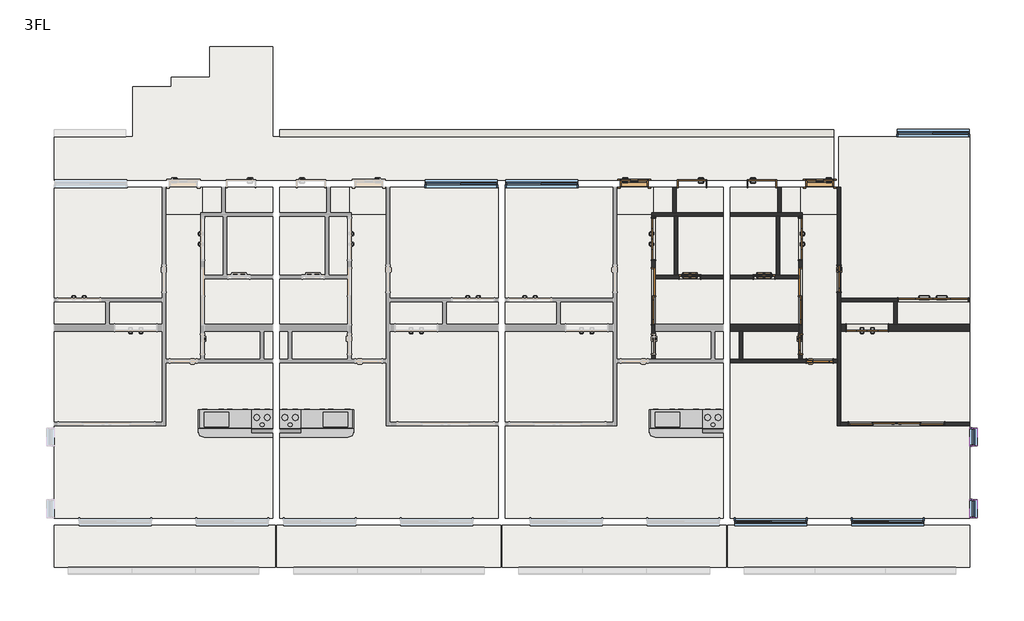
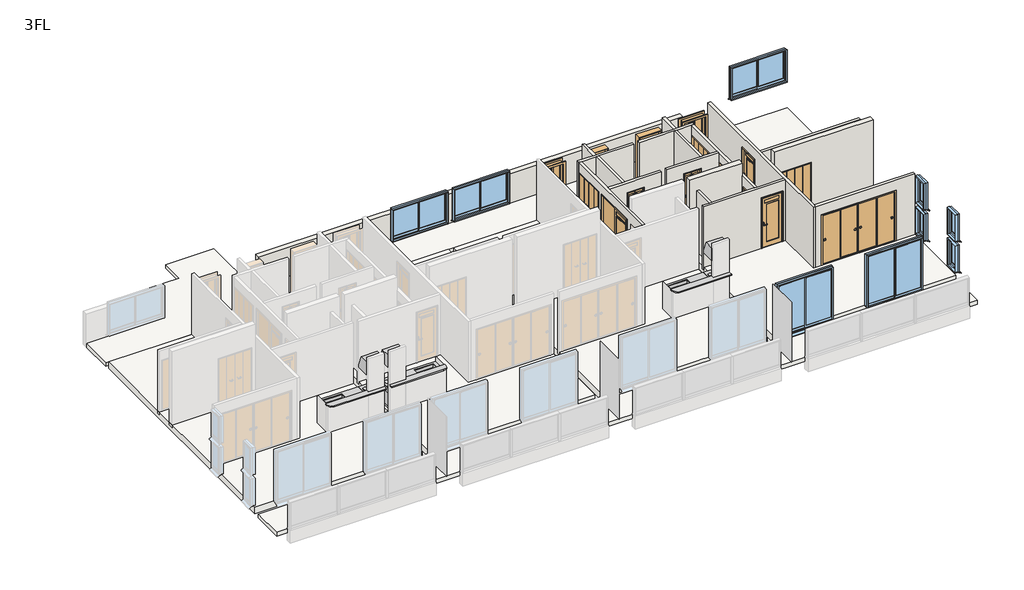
# One storey, part 3 of 3: 19 walls, 16 doors, 14 slabs, 9 windows, 3 flow terminals, 3 furniture elements.
"""IFC4 building model written with IfcOpenShell, lengths in millimetres."""

from ifc_helpers import new_model, si_unit, frame, origin, place, context, project, spatial, polyline, outline, extrude, faceted_brep, transform, mapped, element, save
from components import door_800x2000_a7d1584b, door_800x2000_010bfebf, w1200h2000_6a144d60, w1200h2000_99d19fb3, w1200h2000_ebe1d490, w1600h2000_4c3c234a, w1600h2000_ca690e72, w2000h2000_5dbb6d6a, w2800h2000_04aa64cd, w600h2000_6a266bef, w600h2000_94bb9c3c, w600h2000_8ea70a65, w800h2000_1d97c4d4, w800h2000_13e9f519, w800h2000_ccb03061, w800h2000_0ab7d42c, flow_terminal_5276808d, flow_terminal_b13850ba, furniture_3a0496f9, furniture_dadabe7c, window_2000x1200_fc91d1cf, window_2000x2000_f1ff98da, window_450x1000_1cddc73c

model = new_model("IFC4")

# Units and contexts
model_context = context("Model", 3, world=origin())
ifc_project = project(units=[si_unit("LENGTHUNIT", "METRE", prefix="MILLI")], contexts=[model_context])

# Site, building, storey
site = spatial("IfcSite", under=ifc_project)
building = spatial("IfcBuilding", under=site)
storey = spatial("IfcBuildingStorey", under=building, Name="3FL", Elevation=7000.0)

# Doors
placement = place(None, origin())
door_800x2000_shape = door_800x2000_a7d1584b(model_context)
element("IfcDoor", 1, ObjectType="片開き3 : 800x2000", at=placement, inside=storey, context=model_context, shape_type="MappedRepresentation", body=[
    mapped(door_800x2000_shape, transform((5521.2812754, -5700.1171638, 7000.0), x_axis=(1.0, 0.0, 0.0), y_axis=(0.0, 1.0, 0.0), z_axis=(0.0, 0.0, 1.0))),
])
door_800x2000_2_shape = door_800x2000_010bfebf(model_context)
element("IfcDoor", 2, ObjectType="片開き3 : 800x2000", at=placement, inside=storey, context=model_context, shape_type="MappedRepresentation", body=[
    mapped(door_800x2000_2_shape, transform((10821.2812754, -5700.1171638, 7000.0), x_axis=(-1.0, 0.0, 0.0), y_axis=(0.0, -1.0, 0.0), z_axis=(0.0, 0.0, 1.0))),
])
w1200h2000_shape = w1200h2000_6a144d60(model_context)
element("IfcDoor", 3, ObjectType="木製折戸 : w1200h2000", at=placement, inside=storey, context=model_context, shape_type="MappedRepresentation", body=[
    mapped(w1200h2000_shape, transform((6071.2812754, -7280.1171638, 7100.0), x_axis=(0.0, 1.0, 0.0), y_axis=(-1.0, 0.0, 0.0), z_axis=(0.0, 0.0, 1.0))),
])
w1200h2000_2_shape = w1200h2000_99d19fb3(model_context)
element("IfcDoor", 4, ObjectType="木製折戸 : w1200h2000", at=placement, inside=storey, context=model_context, shape_type="MappedRepresentation", body=[
    mapped(w1200h2000_2_shape, transform((10271.2812754, -7280.1171638, 7100.0), x_axis=(0.0, 1.0, 0.0), y_axis=(-1.0, 0.0, 0.0), z_axis=(0.0, 0.0, 1.0))),
])
w1200h2000_3_shape = w1200h2000_ebe1d490(model_context)
element("IfcDoor", 5, ObjectType="木製折戸 : w1200h2000", at=placement, inside=storey, context=model_context, shape_type="MappedRepresentation", body=[
    mapped(w1200h2000_3_shape, transform((12183.7812754, -9820.1171638, 7100.0), x_axis=(1.0, 0.0, 0.0), y_axis=(0.0, 1.0, 0.0), z_axis=(0.0, 0.0, 1.0))),
])
w1600h2000_shape = w1600h2000_4c3c234a(model_context)
element("IfcDoor", 6, ObjectType="片引戸CL2017 : w1600h2000", at=placement, inside=storey, context=model_context, shape_type="MappedRepresentation", body=[
    mapped(w1600h2000_shape, transform((6071.2812754, -8920.1171638, 7100.0), x_axis=(0.0, -1.0, 0.0), y_axis=(1.0, 0.0, 0.0), z_axis=(0.0, 0.0, 1.0))),
])
w1600h2000_2_shape = w1600h2000_ca690e72(model_context)
element("IfcDoor", 7, ObjectType="片引戸CL2017 : w1600h2000", at=placement, inside=storey, context=model_context, shape_type="MappedRepresentation", body=[
    mapped(w1600h2000_2_shape, transform((10271.2812754, -8920.1171638, 7100.0), x_axis=(0.0, -1.0, 0.0), y_axis=(1.0, 0.0, 0.0), z_axis=(0.0, 0.0, 1.0))),
])
w2000h2000_shape = w2000h2000_5dbb6d6a(model_context)
element("IfcDoor", 8, ObjectType="木製折戸 : w2000h2000", at=placement, inside=storey, context=model_context, shape_type="MappedRepresentation", body=[
    mapped(w2000h2000_shape, transform((14066.2812754, -9020.1171638, 7100.0), x_axis=(-1.0, 0.0, 0.0), y_axis=(0.0, -1.0, 0.0), z_axis=(0.0, 0.0, 1.0))),
])
w2800h2000_shape = w2800h2000_04aa64cd(model_context)
element("IfcDoor", 9, ObjectType="引違い 4 枚 2 溝_襖 : w2800h2000", at=placement, inside=storey, context=model_context, shape_type="MappedRepresentation", body=[
    mapped(w2800h2000_shape, transform((13026.8167793, -12570.1171638, 7100.0), x_axis=(1.0, 0.0, 0.0), y_axis=(0.0, 1.0, 0.0), z_axis=(0.0, 0.0, 1.0))),
])
w600h2000_shape = w600h2000_6a266bef(model_context)
element("IfcDoor", 10, ObjectType="浴室折戸 : w600h2000", at=placement, inside=storey, context=model_context, shape_type="MappedRepresentation", body=[
    mapped(w600h2000_shape, transform((7111.2812754, -8370.1171638, 7100.0), x_axis=(1.0, 0.0, 0.0), y_axis=(0.0, 1.0, 0.0), z_axis=(0.0, 0.0, 1.0))),
])
w600h2000_2_shape = w600h2000_94bb9c3c(model_context)
element("IfcDoor", 11, ObjectType="浴室折戸 : w600h2000", at=placement, inside=storey, context=model_context, shape_type="MappedRepresentation", body=[
    mapped(w600h2000_2_shape, transform((9231.2812754, -8370.1171638, 7100.0), x_axis=(-1.0, 0.0, 0.0), y_axis=(0.0, -1.0, 0.0), z_axis=(0.0, 0.0, 1.0))),
])
w600h2000_3_shape = w600h2000_8ea70a65(model_context)
element("IfcDoor", 12, ObjectType="片開戸CL2058 : w600h2000", at=placement, inside=storey, context=model_context, shape_type="MappedRepresentation", body=[
    mapped(w600h2000_3_shape, transform((10271.2812754, -10295.1171638, 7100.0), x_axis=(0.0, -1.0, 0.0), y_axis=(1.0, 0.0, 0.0), z_axis=(0.0, 0.0, 1.0))),
])
w800h2000_shape = w800h2000_1d97c4d4(model_context)
element("IfcDoor", 13, ObjectType="片開 : w800h2000", at=placement, inside=storey, context=model_context, shape_type="MappedRepresentation", body=[
    mapped(w800h2000_shape, transform((7171.2812754, -5700.1171638, 7000.0), x_axis=(-1.0, 0.0, 0.0), y_axis=(0.0, -1.0, 0.0), z_axis=(0.0, 0.0, 1.0))),
])
w800h2000_2_shape = w800h2000_13e9f519(model_context)
element("IfcDoor", 14, ObjectType="片開戸CL2058 : w800h2000", at=placement, inside=storey, context=model_context, shape_type="MappedRepresentation", body=[
    mapped(w800h2000_2_shape, transform((10821.2812754, -10770.1171638, 7100.0), x_axis=(1.0, 0.0, 0.0), y_axis=(0.0, 1.0, 0.0), z_axis=(0.0, 0.0, 1.0))),
])
w800h2000_3_shape = w800h2000_ccb03061(model_context)
element("IfcDoor", 15, ObjectType="片開戸CL2058 : w800h2000", at=placement, inside=storey, context=model_context, shape_type="MappedRepresentation", body=[
    mapped(w800h2000_3_shape, transform((11371.2812754, -8420.1171638, 7100.0), x_axis=(0.0, -1.0, 0.0), y_axis=(1.0, 0.0, 0.0), z_axis=(0.0, 0.0, 1.0))),
])
w800h2000_4_shape = w800h2000_0ab7d42c(model_context)
element("IfcDoor", 16, ObjectType="片開 : w800h2000", at=placement, inside=storey, context=model_context, shape_type="MappedRepresentation", body=[
    mapped(w800h2000_4_shape, transform((9171.2812754, -5700.1171638, 7000.0), x_axis=(1.0, 0.0, 0.0), y_axis=(0.0, 1.0, 0.0), z_axis=(0.0, 0.0, 1.0))),
])

# Flow terminals
flow_terminal_shape = flow_terminal_5276808d(model_context)
element("IfcFlowTerminal", 17, ObjectType="システムキッチンIH : システムキッチンIH", at=placement, inside=storey, context=model_context, shape_type="MappedRepresentation", body=[
    mapped(flow_terminal_shape, transform((-4828.7187246, -12720.1171638, 7200.0), x_axis=(1.0, 0.0, 0.0), y_axis=(0.0, 1.0, 0.0), z_axis=(0.0, 0.0, 1.0))),
])
element("IfcFlowTerminal", 18, ObjectType="システムキッチンIH : システムキッチンIH", at=placement, inside=storey, context=model_context, shape_type="MappedRepresentation", body=[
    mapped(flow_terminal_shape, transform((8071.2812754, -12720.1171638, 7200.0), x_axis=(1.0, 0.0, 0.0), y_axis=(0.0, 1.0, 0.0), z_axis=(0.0, 0.0, 1.0))),
])
flow_terminal_2_shape = flow_terminal_b13850ba(model_context)
element("IfcFlowTerminal", 19, ObjectType="システムキッチンIH : システムキッチンIH", at=placement, inside=storey, context=model_context, shape_type="MappedRepresentation", body=[
    mapped(flow_terminal_2_shape, transform((-4628.7187246, -12720.1171638, 7200.0), x_axis=(-1.0, 0.0, 0.0), y_axis=(0.0, -1.0, 0.0), z_axis=(0.0, 0.0, 1.0))),
])

# Furniture
furniture_shape = furniture_3a0496f9(model_context)
element("IfcFurniture", 20, ObjectType="キッチンカウンター : キッチンカウンター", at=placement, inside=storey, context=model_context, shape_type="MappedRepresentation", body=[
    mapped(furniture_shape, transform((-4628.7187246, -12820.1171638, 7100.0), x_axis=(-1.0, 0.0, 0.0), y_axis=(0.0, -1.0, 0.0), z_axis=(0.0, 0.0, 1.0))),
])
furniture_2_shape = furniture_dadabe7c(model_context)
element("IfcFurniture", 21, ObjectType="キッチンカウンター : キッチンカウンター", at=placement, inside=storey, context=model_context, shape_type="MappedRepresentation", body=[
    mapped(furniture_2_shape, transform((-4828.7187246, -12820.1171638, 7100.0), x_axis=(1.0, 0.0, 0.0), y_axis=(0.0, 1.0, 0.0), z_axis=(0.0, 0.0, 1.0))),
])
element("IfcFurniture", 22, ObjectType="キッチンカウンター : キッチンカウンター", at=placement, inside=storey, context=model_context, shape_type="MappedRepresentation", body=[
    mapped(furniture_2_shape, transform((8071.2812754, -12820.1171638, 7100.0), x_axis=(1.0, 0.0, 0.0), y_axis=(0.0, 1.0, 0.0), z_axis=(0.0, 0.0, 1.0))),
])

# Slabs
element("IfcSlab", 23, ObjectType="RC150＋100", at=placement, inside=storey, context=model_context, shape_type="SweptSolid", body=[
    extrude(outline(polyline([(-4828.7187246, -15270.1171638), (-11078.7187246, -15270.1171638), (-11078.7187246, -5800.1171638), (-7928.7187246, -5800.1171638), (-7928.7187246, -6580.1171638), (-6828.7187246, -6580.1171638), (-6828.7187246, -5800.1171638), (-4828.7187246, -5800.1171638), (-4828.7187246, -6580.1171638), (-6188.7187246, -6580.1171638), (-6188.7187246, -8370.1171638), (-4828.7187246, -8370.1171638), (-4828.7187246, -15270.1171638)])), frame((0.0, 0.0, 6850.0), z_axis=(0.0, 0.0, 1.0), x_axis=(1.0, 0.0, 0.0)), (0.0, 0.0, 1.0), 250.0),
])
element("IfcSlab", 24, ObjectType="RC150＋100", at=placement, inside=storey, context=model_context, shape_type="SweptSolid", body=[
    extrude(outline(polyline([(-4628.7187246, -15270.1171638), (-4628.7187246, -8370.1171638), (-3268.7187246, -8370.1171638), (-3268.7187246, -6580.1171638), (-4628.7187246, -6580.1171638), (-4628.7187246, -5800.1171638), (-2628.7187246, -5800.1171638), (-2628.7187246, -6580.1171638), (-1528.7187246, -6580.1171638), (-1528.7187246, -5800.1171638), (1621.2812754, -5800.1171638), (1621.2812754, -15270.1171638), (-4628.7187246, -15270.1171638)])), frame((0.0, 0.0, 6850.0), z_axis=(0.0, 0.0, 1.0), x_axis=(1.0, 0.0, 0.0)), (0.0, 0.0, 1.0), 250.0),
])
element("IfcSlab", 25, ObjectType="RC150＋100", at=placement, inside=storey, context=model_context, shape_type="SweptSolid", body=[
    extrude(outline(polyline([(8071.2812754, -15270.1171638), (1821.2812754, -15270.1171638), (1821.2812754, -5800.1171638), (4971.2812754, -5800.1171638), (4971.2812754, -6580.1171638), (6071.2812754, -6580.1171638), (6071.2812754, -5800.1171638), (8071.2812754, -5800.1171638), (8071.2812754, -6580.1171638), (6711.2812754, -6580.1171638), (6711.2812754, -8370.1171638), (8071.2812754, -8370.1171638), (8071.2812754, -15270.1171638)])), frame((0.0, 0.0, 6850.0), z_axis=(0.0, 0.0, 1.0), x_axis=(1.0, 0.0, 0.0)), (0.0, 0.0, 1.0), 250.0),
])
element("IfcSlab", 26, ObjectType="RC150＋100", at=placement, inside=storey, context=model_context, shape_type="SweptSolid", body=[
    extrude(outline(polyline([(8271.2812754, -15270.1171638), (8271.2812754, -8370.1171638), (9631.2812754, -8370.1171638), (9631.2812754, -6580.1171638), (8271.2812754, -6580.1171638), (8271.2812754, -5800.1171638), (10271.2812754, -5800.1171638), (10271.2812754, -6580.1171638), (11371.2812754, -6580.1171638), (11371.2812754, -4350.1171638), (15121.2812754, -4350.1171638), (15121.2812754, -15270.1171638), (8271.2812754, -15270.1171638)])), frame((0.0, 0.0, 6850.0), z_axis=(0.0, 0.0, 1.0), x_axis=(1.0, 0.0, 0.0)), (0.0, 0.0, 1.0), 250.0),
])
element("IfcSlab", 27, ObjectType="RC150", at=placement, inside=storey, context=model_context, shape_type="SweptSolid", body=[
    extrude(outline(polyline([(-4828.7187246, -8370.1171638), (-6188.7187246, -8370.1171638), (-6188.7187246, -6580.1171638), (-4828.7187246, -6580.1171638), (-4828.7187246, -8370.1171638)])), frame((0.0, 0.0, 6850.0), z_axis=(0.0, 0.0, 1.0), x_axis=(1.0, 0.0, 0.0)), (0.0, 0.0, 1.0), 150.0),
])
element("IfcSlab", 28, ObjectType="RC150", at=placement, inside=storey, context=model_context, shape_type="SweptSolid", body=[
    extrude(outline(polyline([(-6828.7187246, -6580.1171638), (-7928.7187246, -6580.1171638), (-7928.7187246, -5800.1171638), (-6828.7187246, -5800.1171638), (-6828.7187246, -6580.1171638)])), frame((0.0, 0.0, 6800.0), z_axis=(0.0, 0.0, 1.0), x_axis=(1.0, 0.0, 0.0)), (0.0, 0.0, 1.0), 150.0),
])
element("IfcSlab", 29, ObjectType="RC150", at=placement, inside=storey, context=model_context, shape_type="SweptSolid", body=[
    extrude(outline(polyline([(-4628.7187246, -8370.1171638), (-4628.7187246, -6580.1171638), (-3268.7187246, -6580.1171638), (-3268.7187246, -8370.1171638), (-4628.7187246, -8370.1171638)])), frame((0.0, 0.0, 6850.0), z_axis=(0.0, 0.0, 1.0), x_axis=(1.0, 0.0, 0.0)), (0.0, 0.0, 1.0), 150.0),
])
element("IfcSlab", 30, ObjectType="RC150", at=placement, inside=storey, context=model_context, shape_type="SweptSolid", body=[
    extrude(outline(polyline([(-2628.7187246, -6580.1171638), (-2628.7187246, -5800.1171638), (-1528.7187246, -5800.1171638), (-1528.7187246, -6580.1171638), (-2628.7187246, -6580.1171638)])), frame((0.0, 0.0, 6800.0), z_axis=(0.0, 0.0, 1.0), x_axis=(1.0, 0.0, 0.0)), (0.0, 0.0, 1.0), 150.0),
])
element("IfcSlab", 31, ObjectType="RC150", at=placement, inside=storey, context=model_context, shape_type="SweptSolid", body=[
    extrude(outline(polyline([(8071.2812754, -8370.1171638), (6711.2812754, -8370.1171638), (6711.2812754, -6580.1171638), (8071.2812754, -6580.1171638), (8071.2812754, -8370.1171638)])), frame((0.0, 0.0, 6850.0), z_axis=(0.0, 0.0, 1.0), x_axis=(1.0, 0.0, 0.0)), (0.0, 0.0, 1.0), 150.0),
])
element("IfcSlab", 32, ObjectType="RC150", at=placement, inside=storey, context=model_context, shape_type="SweptSolid", body=[
    extrude(outline(polyline([(6071.2812754, -6580.1171638), (4971.2812754, -6580.1171638), (4971.2812754, -5800.1171638), (6071.2812754, -5800.1171638), (6071.2812754, -6580.1171638)])), frame((0.0, 0.0, 6800.0), z_axis=(0.0, 0.0, 1.0), x_axis=(1.0, 0.0, 0.0)), (0.0, 0.0, 1.0), 150.0),
])
element("IfcSlab", 33, ObjectType="RC150", at=placement, inside=storey, context=model_context, shape_type="SweptSolid", body=[
    extrude(outline(polyline([(8271.2812754, -8370.1171638), (8271.2812754, -6580.1171638), (9631.2812754, -6580.1171638), (9631.2812754, -8370.1171638), (8271.2812754, -8370.1171638)])), frame((0.0, 0.0, 6850.0), z_axis=(0.0, 0.0, 1.0), x_axis=(1.0, 0.0, 0.0)), (0.0, 0.0, 1.0), 150.0),
])
element("IfcSlab", 34, ObjectType="RC150", at=placement, inside=storey, context=model_context, shape_type="SweptSolid", body=[
    extrude(outline(polyline([(10271.2812754, -6580.1171638), (10271.2812754, -5800.1171638), (11371.2812754, -5800.1171638), (11371.2812754, -6580.1171638), (10271.2812754, -6580.1171638)])), frame((0.0, 0.0, 6800.0), z_axis=(0.0, 0.0, 1.0), x_axis=(1.0, 0.0, 0.0)), (0.0, 0.0, 1.0), 150.0),
])
element("IfcSlab", 35, ObjectType="RC150", at=placement, inside=storey, context=model_context, shape_type="SweptSolid", body=[
    extrude(outline(polyline([(15121.2812754, -15470.1171638), (15121.2812754, -16670.1171638), (-11078.7187246, -16670.1171638), (-11078.7187246, -15470.1171638), (15121.2812754, -15470.1171638)])), frame((0.0, 0.0, 6800.0), z_axis=(0.0, 0.0, 1.0), x_axis=(1.0, 0.0, 0.0)), (0.0, 0.0, 1.0), 150.0),
])
element("IfcSlab", 36, ObjectType="RC150", at=placement, inside=storey, context=model_context, shape_type="SweptSolid", body=[
    extrude(outline(polyline([(-8828.7187246, -4350.1171638), (-8828.7187246, -2920.1171638), (-7728.7187246, -2920.1171638), (-7728.7187246, -2660.1171638), (-6628.7187246, -2660.1171638), (-6628.7187246, -1775.1171638), (-4828.7187246, -1775.1171638), (-4828.7187246, -4350.1171638), (11221.2812754, -4350.1171638), (11221.2812754, -5600.1171638), (-11078.7187246, -5600.1171638), (-11078.7187246, -4350.1171638), (-8828.7187246, -4350.1171638)])), frame((0.0, 0.0, 6800.0), z_axis=(0.0, 0.0, 1.0), x_axis=(1.0, 0.0, 0.0)), (0.0, 0.0, 1.0), 150.0),
])

# Walls
element("IfcWall", 37, ObjectType="(R)RC200", at=placement, inside=storey, context=model_context, shape_type="Brep", body=[
    faceted_brep([(15121.2812754, -9720.1171638, 7000.0), (13046.2812754, -9720.1171638, 7000.0), (12946.2812754, -9720.1171638, 7000.0), (11421.2812754, -9720.1171638, 7000.0), (11421.2812754, -9720.1171638, 10000.0), (15121.2812754, -9720.1171638, 10000.0), (12803.7812754, -9720.1171638, 9120.0), (11563.7812754, -9720.1171638, 9120.0), (11563.7812754, -9720.1171638, 7100.0), (12803.7812754, -9720.1171638, 7100.0), (15121.2812754, -9920.1171638, 7000.0), (15121.2812754, -9920.1171638, 10000.0), (11421.2812754, -9920.1171638, 10000.0), (11421.2812754, -9920.1171638, 7000.0), (12803.7812754, -9920.1171638, 9120.0), (12803.7812754, -9920.1171638, 7100.0), (11563.7812754, -9920.1171638, 7100.0), (11563.7812754, -9920.1171638, 9120.0)], [[[0, 1, 2, 3, 4, 5], [6, 7, 8, 9]], [[10, 11, 12, 13], [14, 15, 16, 17]], [[3, 2, 1, 0, 10, 13]], [[5, 4, 12, 11]], [[4, 3, 13, 12]], [[15, 14, 6, 9]], [[16, 15, 9, 8]], [[17, 16, 8, 7]], [[14, 17, 7, 6]], [[0, 5, 11, 10]]]),
])
element("IfcWall", 38, ObjectType="(R)RC200", at=placement, inside=storey, context=model_context, shape_type="Brep", body=[
    faceted_brep([(10221.2812754, -9720.1171638, 7000.0), (8271.2812754, -9720.1171638, 7000.0), (8271.2812754, -9720.1171638, 10000.0), (10221.2812754, -9720.1171638, 10000.0), (10221.2812754, -9920.1171638, 7000.0), (10221.2812754, -9920.1171638, 10000.0), (8271.2812754, -9920.1171638, 10000.0), (8271.2812754, -9920.1171638, 7000.0), (8521.2812754, -9920.1171638, 7000.0), (8621.2812754, -9920.1171638, 7000.0)], [[[0, 1, 2, 3]], [[4, 5, 6, 7, 8, 9]], [[1, 0, 4, 9, 8, 7]], [[3, 2, 6, 5]], [[0, 3, 5, 4]], [[2, 1, 7, 6]]]),
])
element("IfcWall", 39, ObjectType="(R)RC200", at=placement, inside=storey, context=model_context, shape_type="SweptSolid", body=[
    extrude(outline(polyline([(11221.2812754, -4350.1171638), (-4628.7187246, -4350.1171638), (-4628.7187246, -4150.1171638), (11221.2812754, -4150.1171638), (11221.2812754, -4350.1171638)])), frame((0.0, 0.0, 6800.0), z_axis=(0.0, 0.0, 1.0), x_axis=(1.0, 0.0, 0.0)), (0.0, 0.0, 1.0), 1300.0),
])
element("IfcWall", 40, ObjectType="(L1)LGS100", at=placement, inside=storey, context=model_context, shape_type="Brep", body=[
    faceted_brep([(6121.2812754, -8420.1171638, 7000.0), (8071.2812754, -8420.1171638, 7000.0), (8071.2812754, -8420.1171638, 9500.0), (6121.2812754, -8420.1171638, 9500.0), (7431.2812754, -8420.1171638, 9120.0), (7431.2812754, -8420.1171638, 7100.0), (6791.2812754, -8420.1171638, 7100.0), (6791.2812754, -8420.1171638, 9120.0), (6121.2812754, -8320.1171638, 7000.0), (6121.2812754, -8320.1171638, 9500.0), (6661.2812754, -8320.1171638, 9500.0), (6761.2812754, -8320.1171638, 9500.0), (8071.2812754, -8320.1171638, 9500.0), (8071.2812754, -8320.1171638, 7000.0), (6761.2812754, -8320.1171638, 7000.0), (6661.2812754, -8320.1171638, 7000.0), (7431.2812754, -8320.1171638, 9120.0), (6791.2812754, -8320.1171638, 9120.0), (6791.2812754, -8320.1171638, 7100.0), (7431.2812754, -8320.1171638, 7100.0)], [[[0, 1, 2, 3], [4, 5, 6, 7]], [[8, 9, 10, 11, 12, 13, 14, 15], [16, 17, 18, 19]], [[1, 0, 8, 15, 14, 13]], [[3, 2, 12, 11, 10, 9]], [[0, 3, 9, 8]], [[5, 4, 16, 19]], [[6, 5, 19, 18]], [[7, 6, 18, 17]], [[4, 7, 17, 16]], [[2, 1, 13, 12]]]),
])
element("IfcWall", 41, ObjectType="(L1)LGS100", at=placement, inside=storey, context=model_context, shape_type="Brep", body=[
    faceted_brep([(6121.2812754, -10720.1171638, 7000.0), (6121.2812754, -9920.1171638, 7000.0), (6121.2812754, -9720.1171638, 7000.0), (6121.2812754, -8420.1171638, 7000.0), (6121.2812754, -8320.1171638, 7000.0), (6121.2812754, -6630.1171638, 7000.0), (6121.2812754, -6630.1171638, 9500.0), (6121.2812754, -8320.1171638, 9500.0), (6121.2812754, -8420.1171638, 9500.0), (6121.2812754, -10720.1171638, 9500.0), (6121.2812754, -10595.1171638, 7100.0), (6121.2812754, -10595.1171638, 9100.0), (6121.2812754, -9995.1171638, 9100.0), (6121.2812754, -9995.1171638, 7100.0), (6121.2812754, -6660.1171638, 7100.0), (6121.2812754, -7900.1171638, 7100.0), (6121.2812754, -7900.1171638, 9120.0), (6121.2812754, -6660.1171638, 9120.0), (6121.2812754, -9745.1171638, 7100.0), (6121.2812754, -9745.1171638, 9140.0), (6121.2812754, -8095.1171638, 9140.0), (6121.2812754, -8095.1171638, 7100.0), (6021.2812754, -6630.1171638, 7000.0), (6021.2812754, -10720.1171638, 7000.0), (6021.2812754, -10720.1171638, 9500.0), (6021.2812754, -6630.1171638, 9500.0), (6021.2812754, -10595.1171638, 7100.0), (6021.2812754, -9995.1171638, 7100.0), (6021.2812754, -9995.1171638, 9100.0), (6021.2812754, -10595.1171638, 9100.0), (6021.2812754, -7900.1171638, 7100.0), (6021.2812754, -6660.1171638, 7100.0), (6021.2812754, -6660.1171638, 9120.0), (6021.2812754, -7900.1171638, 9120.0), (6021.2812754, -9745.1171638, 7100.0), (6021.2812754, -8095.1171638, 7100.0), (6021.2812754, -8095.1171638, 9140.0), (6021.2812754, -9745.1171638, 9140.0)], [[[0, 1, 2, 3, 4, 5, 6, 7, 8, 9], [10, 11, 12, 13], [14, 15, 16, 17], [18, 19, 20, 21]], [[22, 23, 24, 25], [26, 27, 28, 29], [30, 31, 32, 33], [34, 35, 36, 37]], [[5, 4, 3, 2, 1, 0, 23, 22]], [[9, 8, 7, 6, 25, 24]], [[0, 9, 24, 23]], [[11, 10, 26, 29]], [[12, 11, 29, 28]], [[13, 12, 28, 27]], [[10, 13, 27, 26]], [[14, 31, 30, 15]], [[15, 30, 33, 16]], [[16, 33, 32, 17]], [[19, 18, 34, 37]], [[20, 19, 37, 36]], [[21, 20, 36, 35]], [[18, 21, 35, 34]], [[31, 14, 17, 32]], [[6, 5, 22, 25]]]),
])
element("IfcWall", 42, ObjectType="(L1)LGS100", at=placement, inside=storey, context=model_context, shape_type="Brep", body=[
    faceted_brep([(6021.2812754, -6630.1171638, 7000.0), (6121.2812754, -6630.1171638, 7000.0), (6661.2812754, -6630.1171638, 7000.0), (6761.2812754, -6630.1171638, 7000.0), (8071.2812754, -6630.1171638, 7000.0), (8071.2812754, -6630.1171638, 9500.0), (6761.2812754, -6630.1171638, 9500.0), (6661.2812754, -6630.1171638, 9500.0), (6121.2812754, -6630.1171638, 9500.0), (6021.2812754, -6630.1171638, 9500.0), (6021.2812754, -6530.1171638, 7000.0), (6021.2812754, -6530.1171638, 9500.0), (6621.2812754, -6530.1171638, 9500.0), (6721.2812754, -6530.1171638, 9500.0), (8071.2812754, -6530.1171638, 9500.0), (8071.2812754, -6530.1171638, 7000.0), (6721.2812754, -6530.1171638, 7000.0), (6621.2812754, -6530.1171638, 7000.0)], [[[0, 1, 2, 3, 4, 5, 6, 7, 8, 9]], [[10, 11, 12, 13, 14, 15, 16, 17]], [[4, 3, 2, 1, 0, 10, 17, 16, 15]], [[9, 8, 7, 6, 5, 14, 13, 12, 11]], [[0, 9, 11, 10]], [[5, 4, 15, 14]]]),
])
element("IfcWall", 43, ObjectType="(L1)LGS100", at=placement, inside=storey, context=model_context, shape_type="SweptSolid", body=[
    extrude(outline(polyline([(6721.2812754, -5800.1171638), (6721.2812754, -6530.1171638), (6621.2812754, -6530.1171638), (6621.2812754, -5800.1171638), (6721.2812754, -5800.1171638)])), frame((0.0, 0.0, 7000.0), z_axis=(0.0, 0.0, 1.0), x_axis=(1.0, 0.0, 0.0)), (0.0, 0.0, 1.0), 2500.0),
])
element("IfcWall", 44, ObjectType="(L1)LGS100", at=placement, inside=storey, context=model_context, shape_type="SweptSolid", body=[
    extrude(outline(polyline([(6761.2812754, -6630.1171638), (6761.2812754, -8320.1171638), (6661.2812754, -8320.1171638), (6661.2812754, -6630.1171638), (6761.2812754, -6630.1171638)])), frame((0.0, 0.0, 7000.0), z_axis=(0.0, 0.0, 1.0), x_axis=(1.0, 0.0, 0.0)), (0.0, 0.0, 1.0), 2500.0),
])
element("IfcWall", 45, ObjectType="(L1)LGS100", at=placement, inside=storey, context=model_context, shape_type="Brep", body=[
    faceted_brep([(15121.2812754, -8970.1171638, 7000.0), (11421.2812754, -8970.1171638, 7000.0), (11421.2812754, -8970.1171638, 9500.0), (15121.2812754, -8970.1171638, 9500.0), (13046.2812754, -8970.1171638, 9120.0), (13046.2812754, -8970.1171638, 7100.0), (15086.2812754, -8970.1171638, 7100.0), (15086.2812754, -8970.1171638, 9120.0), (11421.2812754, -9070.1171638, 7000.0), (12946.2812754, -9070.1171638, 7000.0), (13046.2812754, -9070.1171638, 7000.0), (15121.2812754, -9070.1171638, 7000.0), (15121.2812754, -9070.1171638, 9500.0), (13046.2812754, -9070.1171638, 9500.0), (12946.2812754, -9070.1171638, 9500.0), (11421.2812754, -9070.1171638, 9500.0), (13046.2812754, -9070.1171638, 7100.0), (13046.2812754, -9070.1171638, 9120.0), (15086.2812754, -9070.1171638, 9120.0), (15086.2812754, -9070.1171638, 7100.0)], [[[0, 1, 2, 3], [4, 5, 6, 7]], [[8, 9, 10, 11, 12, 13, 14, 15], [16, 17, 18, 19]], [[1, 0, 11, 10, 9, 8]], [[3, 2, 15, 14, 13, 12]], [[2, 1, 8, 15]], [[4, 17, 16, 5]], [[5, 16, 19, 6]], [[17, 4, 7, 18]], [[18, 7, 6, 19]], [[0, 3, 12, 11]]]),
])
element("IfcWall", 46, ObjectType="(L1)LGS100", at=placement, inside=storey, context=model_context, shape_type="Brep", body=[
    faceted_brep([(13046.2812754, -9720.1171638, 7000.0), (13046.2812754, -9070.1171638, 7000.0), (13046.2812754, -9070.1171638, 7100.0), (13046.2812754, -9070.1171638, 9120.0), (13046.2812754, -9070.1171638, 9500.0), (13046.2812754, -9720.1171638, 9500.0), (12946.2812754, -9720.1171638, 7000.0), (12946.2812754, -9720.1171638, 9500.0), (12946.2812754, -9070.1171638, 9500.0), (12946.2812754, -9070.1171638, 7000.0)], [[[0, 1, 2, 3, 4, 5]], [[6, 7, 8, 9]], [[1, 0, 6, 9]], [[5, 4, 8, 7]], [[0, 5, 7, 6]], [[4, 3, 2, 1, 9, 8]]]),
])
element("IfcWall", 47, ObjectType="(L1)LGS100", at=placement, inside=storey, context=model_context, shape_type="Brep", body=[
    faceted_brep([(11421.2812754, -12620.1171638, 7000.0), (11421.2812754, -12520.1171638, 7000.0), (11421.2812754, -9920.1171638, 7000.0), (11421.2812754, -9720.1171638, 7000.0), (11421.2812754, -9070.1171638, 7000.0), (11421.2812754, -8970.1171638, 7000.0), (11421.2812754, -5800.1171638, 7000.0), (11421.2812754, -5800.1171638, 9500.0), (11421.2812754, -8970.1171638, 9500.0), (11421.2812754, -9070.1171638, 9500.0), (11421.2812754, -12520.1171638, 9500.0), (11421.2812754, -12620.1171638, 9500.0), (11421.2812754, -8820.1171638, 7100.0), (11421.2812754, -8820.1171638, 9100.0), (11421.2812754, -8020.1171638, 9100.0), (11421.2812754, -8020.1171638, 7100.0), (11321.2812754, -12620.1171638, 7000.0), (11321.2812754, -12620.1171638, 9500.0), (11321.2812754, -10820.1171638, 9500.0), (11321.2812754, -10720.1171638, 9500.0), (11321.2812754, -5800.1171638, 9500.0), (11321.2812754, -5800.1171638, 7000.0), (11321.2812754, -10720.1171638, 7000.0), (11321.2812754, -10820.1171638, 7000.0), (11321.2812754, -8820.1171638, 7100.0), (11321.2812754, -8020.1171638, 7100.0), (11321.2812754, -8020.1171638, 9100.0), (11321.2812754, -8820.1171638, 9100.0)], [[[0, 1, 2, 3, 4, 5, 6, 7, 8, 9, 10, 11], [12, 13, 14, 15]], [[16, 17, 18, 19, 20, 21, 22, 23], [24, 25, 26, 27]], [[6, 5, 4, 3, 2, 1, 0, 16, 23, 22, 21]], [[11, 10, 9, 8, 7, 20, 19, 18, 17]], [[0, 11, 17, 16]], [[13, 12, 24, 27]], [[14, 13, 27, 26]], [[15, 14, 26, 25]], [[12, 15, 25, 24]], [[7, 6, 21, 20]]]),
])
element("IfcWall", 48, ObjectType="(L1)LGS100", at=placement, inside=storey, context=model_context, shape_type="Brep", body=[
    faceted_brep([(10221.2812754, -8320.1171638, 7000.0), (9681.2812754, -8320.1171638, 7000.0), (9581.2812754, -8320.1171638, 7000.0), (8271.2812754, -8320.1171638, 7000.0), (8271.2812754, -8320.1171638, 9500.0), (9581.2812754, -8320.1171638, 9500.0), (9681.2812754, -8320.1171638, 9500.0), (10221.2812754, -8320.1171638, 9500.0), (8911.2812754, -8320.1171638, 9120.0), (8911.2812754, -8320.1171638, 7100.0), (9551.2812754, -8320.1171638, 7100.0), (9551.2812754, -8320.1171638, 9120.0), (10221.2812754, -8420.1171638, 7000.0), (10221.2812754, -8420.1171638, 9500.0), (8271.2812754, -8420.1171638, 9500.0), (8271.2812754, -8420.1171638, 7000.0), (8911.2812754, -8420.1171638, 9120.0), (9551.2812754, -8420.1171638, 9120.0), (9551.2812754, -8420.1171638, 7100.0), (8911.2812754, -8420.1171638, 7100.0)], [[[0, 1, 2, 3, 4, 5, 6, 7], [8, 9, 10, 11]], [[12, 13, 14, 15], [16, 17, 18, 19]], [[3, 2, 1, 0, 12, 15]], [[7, 6, 5, 4, 14, 13]], [[0, 7, 13, 12]], [[9, 8, 16, 19]], [[10, 9, 19, 18]], [[11, 10, 18, 17]], [[8, 11, 17, 16]], [[4, 3, 15, 14]]]),
])
element("IfcWall", 49, ObjectType="(L1)LGS100", at=placement, inside=storey, context=model_context, shape_type="Brep", body=[
    faceted_brep([(10321.2812754, -10720.1171638, 7000.0), (10321.2812754, -6630.1171638, 7000.0), (10321.2812754, -6630.1171638, 9500.0), (10321.2812754, -10720.1171638, 9500.0), (10321.2812754, -10595.1171638, 7100.0), (10321.2812754, -10595.1171638, 9100.0), (10321.2812754, -9995.1171638, 9100.0), (10321.2812754, -9995.1171638, 7100.0), (10321.2812754, -6660.1171638, 7100.0), (10321.2812754, -7900.1171638, 7100.0), (10321.2812754, -7900.1171638, 9120.0), (10321.2812754, -6660.1171638, 9120.0), (10321.2812754, -9745.1171638, 7100.0), (10321.2812754, -9745.1171638, 9140.0), (10321.2812754, -8095.1171638, 9140.0), (10321.2812754, -8095.1171638, 7100.0), (10221.2812754, -6630.1171638, 7000.0), (10221.2812754, -8320.1171638, 7000.0), (10221.2812754, -8420.1171638, 7000.0), (10221.2812754, -9720.1171638, 7000.0), (10221.2812754, -9920.1171638, 7000.0), (10221.2812754, -10720.1171638, 7000.0), (10221.2812754, -10720.1171638, 9500.0), (10221.2812754, -8420.1171638, 9500.0), (10221.2812754, -8320.1171638, 9500.0), (10221.2812754, -6630.1171638, 9500.0), (10221.2812754, -10595.1171638, 7100.0), (10221.2812754, -9995.1171638, 7100.0), (10221.2812754, -9995.1171638, 9100.0), (10221.2812754, -10595.1171638, 9100.0), (10221.2812754, -7900.1171638, 7100.0), (10221.2812754, -6660.1171638, 7100.0), (10221.2812754, -6660.1171638, 9120.0), (10221.2812754, -7900.1171638, 9120.0), (10221.2812754, -9745.1171638, 7100.0), (10221.2812754, -8095.1171638, 7100.0), (10221.2812754, -8095.1171638, 9140.0), (10221.2812754, -9745.1171638, 9140.0)], [[[0, 1, 2, 3], [4, 5, 6, 7], [8, 9, 10, 11], [12, 13, 14, 15]], [[16, 17, 18, 19, 20, 21, 22, 23, 24, 25], [26, 27, 28, 29], [30, 31, 32, 33], [34, 35, 36, 37]], [[1, 0, 21, 20, 19, 18, 17, 16]], [[3, 2, 25, 24, 23, 22]], [[0, 3, 22, 21]], [[2, 1, 16, 25]], [[5, 4, 26, 29]], [[6, 5, 29, 28]], [[7, 6, 28, 27]], [[4, 7, 27, 26]], [[8, 31, 30, 9]], [[9, 30, 33, 10]], [[10, 33, 32, 11]], [[13, 12, 34, 37]], [[14, 13, 37, 36]], [[15, 14, 36, 35]], [[12, 15, 35, 34]], [[31, 8, 11, 32]]]),
])
element("IfcWall", 50, ObjectType="(L1)LGS100", at=placement, inside=storey, context=model_context, shape_type="Brep", body=[
    faceted_brep([(10321.2812754, -6530.1171638, 7000.0), (9721.2812754, -6530.1171638, 7000.0), (9621.2812754, -6530.1171638, 7000.0), (8271.2812754, -6530.1171638, 7000.0), (8271.2812754, -6530.1171638, 9500.0), (9621.2812754, -6530.1171638, 9500.0), (9721.2812754, -6530.1171638, 9500.0), (10321.2812754, -6530.1171638, 9500.0), (10321.2812754, -6630.1171638, 7000.0), (10321.2812754, -6630.1171638, 9500.0), (10221.2812754, -6630.1171638, 9500.0), (9681.2812754, -6630.1171638, 9500.0), (9581.2812754, -6630.1171638, 9500.0), (8271.2812754, -6630.1171638, 9500.0), (8271.2812754, -6630.1171638, 7000.0), (9581.2812754, -6630.1171638, 7000.0), (9681.2812754, -6630.1171638, 7000.0), (10221.2812754, -6630.1171638, 7000.0)], [[[0, 1, 2, 3, 4, 5, 6, 7]], [[8, 9, 10, 11, 12, 13, 14, 15, 16, 17]], [[3, 2, 1, 0, 8, 17, 16, 15, 14]], [[7, 6, 5, 4, 13, 12, 11, 10, 9]], [[0, 7, 9, 8]], [[4, 3, 14, 13]]]),
])
element("IfcWall", 51, ObjectType="(L1)LGS100", at=placement, inside=storey, context=model_context, shape_type="SweptSolid", body=[
    extrude(outline(polyline([(9721.2812754, -5800.1171638), (9721.2812754, -6530.1171638), (9621.2812754, -6530.1171638), (9621.2812754, -5800.1171638), (9721.2812754, -5800.1171638)])), frame((0.0, 0.0, 7000.0), z_axis=(0.0, 0.0, 1.0), x_axis=(1.0, 0.0, 0.0)), (0.0, 0.0, 1.0), 2500.0),
])
element("IfcWall", 52, ObjectType="(L1)LGS100", at=placement, inside=storey, context=model_context, shape_type="SweptSolid", body=[
    extrude(outline(polyline([(9681.2812754, -6630.1171638), (9681.2812754, -8320.1171638), (9581.2812754, -8320.1171638), (9581.2812754, -6630.1171638), (9681.2812754, -6630.1171638)])), frame((0.0, 0.0, 7000.0), z_axis=(0.0, 0.0, 1.0), x_axis=(1.0, 0.0, 0.0)), (0.0, 0.0, 1.0), 2500.0),
])
element("IfcWall", 53, ObjectType="(L1)LGS100", at=placement, inside=storey, context=model_context, shape_type="SweptSolid", body=[
    extrude(outline(polyline([(8621.2812754, -9920.1171638), (8621.2812754, -10720.1171638), (8521.2812754, -10720.1171638), (8521.2812754, -9920.1171638), (8621.2812754, -9920.1171638)])), frame((0.0, 0.0, 7000.0), z_axis=(0.0, 0.0, 1.0), x_axis=(1.0, 0.0, 0.0)), (0.0, 0.0, 1.0), 2500.0),
])
element("IfcWall", 54, ObjectType="(L1)LGS100", at=placement, inside=storey, context=model_context, shape_type="Brep", body=[
    faceted_brep([(11321.2812754, -10720.1171638, 7000.0), (10321.2812754, -10720.1171638, 7000.0), (10221.2812754, -10720.1171638, 7000.0), (8621.2812754, -10720.1171638, 7000.0), (8521.2812754, -10720.1171638, 7000.0), (8271.2812754, -10720.1171638, 7000.0), (8271.2812754, -10720.1171638, 9500.0), (8521.2812754, -10720.1171638, 9500.0), (8621.2812754, -10720.1171638, 9500.0), (10221.2812754, -10720.1171638, 9500.0), (10321.2812754, -10720.1171638, 9500.0), (11321.2812754, -10720.1171638, 9500.0), (11221.2812754, -10720.1171638, 7100.0), (11221.2812754, -10720.1171638, 9100.0), (10421.2812754, -10720.1171638, 9100.0), (10421.2812754, -10720.1171638, 7100.0), (8271.2812754, -10820.1171638, 7000.0), (11321.2812754, -10820.1171638, 7000.0), (11321.2812754, -10820.1171638, 9500.0), (8271.2812754, -10820.1171638, 9500.0), (11221.2812754, -10820.1171638, 9100.0), (11221.2812754, -10820.1171638, 7100.0), (10421.2812754, -10820.1171638, 7100.0), (10421.2812754, -10820.1171638, 9100.0)], [[[0, 1, 2, 3, 4, 5, 6, 7, 8, 9, 10, 11], [12, 13, 14, 15]], [[16, 17, 18, 19], [20, 21, 22, 23]], [[5, 4, 3, 2, 1, 0, 17, 16]], [[11, 10, 9, 8, 7, 6, 19, 18]], [[0, 11, 18, 17]], [[12, 21, 20, 13]], [[13, 20, 23, 14]], [[14, 23, 22, 15]], [[21, 12, 15, 22]], [[6, 5, 16, 19]]]),
])
element("IfcWall", 55, ObjectType="(L1)LGS100", at=placement, inside=storey, context=model_context, shape_type="SweptSolid", body=[
    extrude(outline(polyline([(7000.0, 15121.2812754), (9500.0, 15121.2812754), (9500.0, 11421.2812754), (7000.0, 11421.2812754), (7000.0, 15121.2812754)]), holes=[polyline([(9100.0, 14421.2812754), (7100.0, 14421.2812754), (7100.0, 11621.2812754), (9100.0, 11621.2812754), (9100.0, 14421.2812754)])]), frame((0.0, -12620.1171638, 0.0), z_axis=(0.0, 1.0, 0.0), x_axis=(0.0, 0.0, 1.0)), (0.0, 0.0, 1.0), 100.0),
])

# Windows
window_2000x1200_shape = window_2000x1200_fc91d1cf(model_context)
element("IfcWindow", 56, ObjectType="鋼製_一般枠_引違い-二枚 : 2000x1200", at=placement, inside=storey, context=model_context, shape_type="MappedRepresentation", body=[
    mapped(window_2000x1200_shape, transform((571.2812754, -5700.1171638, 7250.0), x_axis=(1.0, 0.0, 0.0), y_axis=(0.0, 1.0, 0.0), z_axis=(0.0, 0.0, 1.0))),
])
element("IfcWindow", 57, ObjectType="鋼製_一般枠_引違い-二枚 : 2000x1200", at=placement, inside=storey, context=model_context, shape_type="MappedRepresentation", body=[
    mapped(window_2000x1200_shape, transform((2871.2812754, -5700.1171638, 7250.0), x_axis=(1.0, 0.0, 0.0), y_axis=(0.0, 1.0, 0.0), z_axis=(0.0, 0.0, 1.0))),
])
element("IfcWindow", 58, ObjectType="鋼製_一般枠_引違い-二枚 : 2000x1200", at=placement, inside=storey, context=model_context, shape_type="MappedRepresentation", body=[
    mapped(window_2000x1200_shape, transform((14071.2812754, -4250.1171638, 7250.0), x_axis=(1.0, 0.0, 0.0), y_axis=(0.0, 1.0, 0.0), z_axis=(0.0, 0.0, 1.0))),
])
window_2000x2000_shape = window_2000x2000_f1ff98da(model_context)
element("IfcWindow", 59, ObjectType="鋼製_一般枠_引違い-二枚 : 2000x2000", at=placement, inside=storey, context=model_context, shape_type="MappedRepresentation", body=[
    mapped(window_2000x2000_shape, transform((12771.2812754, -15370.1171638, 6200.0), x_axis=(-1.0, 0.0, 0.0), y_axis=(0.0, -1.0, 0.0), z_axis=(0.0, 0.0, 1.0))),
])
element("IfcWindow", 60, ObjectType="鋼製_一般枠_引違い-二枚 : 2000x2000", at=placement, inside=storey, context=model_context, shape_type="MappedRepresentation", body=[
    mapped(window_2000x2000_shape, transform((9421.2812754, -15370.1171638, 6200.0), x_axis=(-1.0, 0.0, 0.0), y_axis=(0.0, -1.0, 0.0), z_axis=(0.0, 0.0, 1.0))),
])
window_450x1000_shape = window_450x1000_1cddc73c(model_context)
element("IfcWindow", 61, ObjectType="鋼製_一般枠_嵌殺し : 450x1000", at=placement, inside=storey, context=model_context, shape_type="MappedRepresentation", body=[
    mapped(window_450x1000_shape, transform((15221.2812754, -14995.1171638, 6010.0), x_axis=(0.0, 1.0, 0.0), y_axis=(-1.0, 0.0, 0.0), z_axis=(0.0, 0.0, 1.0))),
])
element("IfcWindow", 62, ObjectType="鋼製_一般枠_嵌殺し : 450x1000", at=placement, inside=storey, context=model_context, shape_type="MappedRepresentation", body=[
    mapped(window_450x1000_shape, transform((15221.2812754, -12945.1171638, 6010.0), x_axis=(0.0, 1.0, 0.0), y_axis=(-1.0, 0.0, 0.0), z_axis=(0.0, 0.0, 1.0))),
])
element("IfcWindow", 63, ObjectType="鋼製_一般枠_嵌殺し : 450x1000", at=placement, inside=storey, context=model_context, shape_type="MappedRepresentation", body=[
    mapped(window_450x1000_shape, transform((15221.2812754, -14995.1171638, 7230.0), x_axis=(0.0, 1.0, 0.0), y_axis=(-1.0, 0.0, 0.0), z_axis=(0.0, 0.0, 1.0))),
])
element("IfcWindow", 64, ObjectType="鋼製_一般枠_嵌殺し : 450x1000", at=placement, inside=storey, context=model_context, shape_type="MappedRepresentation", body=[
    mapped(window_450x1000_shape, transform((15221.2812754, -12945.1171638, 7230.0), x_axis=(0.0, 1.0, 0.0), y_axis=(-1.0, 0.0, 0.0), z_axis=(0.0, 0.0, 1.0))),
])

save(model, "model.ifc")
